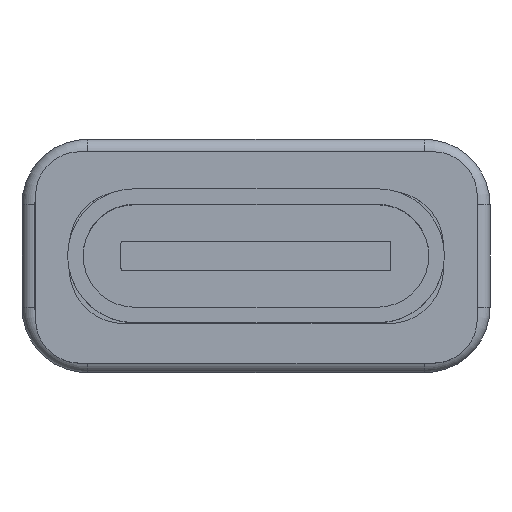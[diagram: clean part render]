
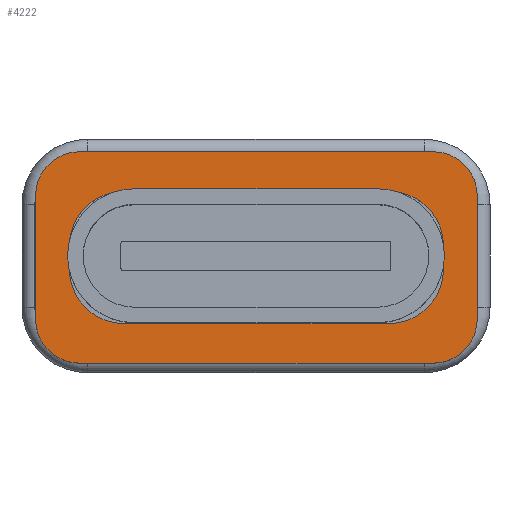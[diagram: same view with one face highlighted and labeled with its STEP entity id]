
A CAD part, top view. The second image highlights one B-rep face of the part: STEP entity #4222.
In plain terms, the highlighted planar face has unit normal (0, 0, 1).
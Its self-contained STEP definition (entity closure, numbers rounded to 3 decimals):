
#24 = VECTOR ( 'NONE', #926, 1000. ) ;
#26 = EDGE_CURVE ( 'NONE', #3141, #939, #163, .T. ) ;
#46 = AXIS2_PLACEMENT_3D ( 'NONE', #3420, #2118, #4640 ) ;
#112 = ORIENTED_EDGE ( 'NONE', *, *, #1993, .F. ) ;
#128 = CARTESIAN_POINT ( 'NONE',  ( -4.225, 2.525, 1.5 ) ) ;
#152 = CARTESIAN_POINT ( 'NONE',  ( -3.17, 1.58, 1.5 ) ) ;
#163 = LINE ( 'NONE', #4346, #24 ) ;
#179 = ORIENTED_EDGE ( 'NONE', *, *, #3443, .F. ) ;
#186 = VERTEX_POINT ( 'NONE', #4287 ) ;
#251 = CARTESIAN_POINT ( 'NONE',  ( -5.275, 1.475, 1.5 ) ) ;
#346 = ORIENTED_EDGE ( 'NONE', *, *, #3162, .T. ) ;
#419 = ORIENTED_EDGE ( 'NONE', *, *, #26, .T. ) ;
#533 = VERTEX_POINT ( 'NONE', #2607 ) ;
#553 = DIRECTION ( 'NONE',  ( 1., 0., 0. ) ) ;
#559 = CIRCLE ( 'NONE', #3631, 1.3 ) ;
#593 = ORIENTED_EDGE ( 'NONE', *, *, #900, .T. ) ;
#648 = EDGE_CURVE ( 'NONE', #2923, #2991, #3325, .T. ) ;
#659 = CARTESIAN_POINT ( 'NONE',  ( 5.275, 1.475, 1.5 ) ) ;
#665 = VECTOR ( 'NONE', #5123, 1000. ) ;
#728 = AXIS2_PLACEMENT_3D ( 'NONE', #3861, #4698, #2673 ) ;
#753 = VECTOR ( 'NONE', #2678, 1000. ) ;
#759 = DIRECTION ( 'NONE',  ( 0., 0., 1. ) ) ;
#837 = CIRCLE ( 'NONE', #46, 1.05 ) ;
#870 = CARTESIAN_POINT ( 'NONE',  ( -5.275, 1.475, 1.5 ) ) ;
#883 = LINE ( 'NONE', #2189, #665 ) ;
#884 = CARTESIAN_POINT ( 'NONE',  ( -4.47, 0.28, 1.5 ) ) ;
#900 = EDGE_CURVE ( 'NONE', #3302, #1604, #3615, .T. ) ;
#926 = DIRECTION ( 'NONE',  ( 0., -1., 0. ) ) ;
#939 = VERTEX_POINT ( 'NONE', #4723 ) ;
#959 = CARTESIAN_POINT ( 'NONE',  ( 3.17, 1.58, 1.5 ) ) ;
#1063 = CARTESIAN_POINT ( 'NONE',  ( 4.47, 0.28, 1.5 ) ) ;
#1106 = CARTESIAN_POINT ( 'NONE',  ( -4.225, -2.525, 1.5 ) ) ;
#1194 = CARTESIAN_POINT ( 'NONE',  ( 4.225, -2.525, 1.5 ) ) ;
#1205 = VECTOR ( 'NONE', #553, 1000. ) ;
#1292 = EDGE_CURVE ( 'NONE', #3608, #2923, #837, .T. ) ;
#1304 = DIRECTION ( 'NONE',  ( 0., -1., 0. ) ) ;
#1330 = VERTEX_POINT ( 'NONE', #4224 ) ;
#1411 = CARTESIAN_POINT ( 'NONE',  ( -4.225, 2.525, 1.5 ) ) ;
#1487 = FACE_BOUND ( 'NONE', #5407, .T. ) ;
#1538 = CIRCLE ( 'NONE', #5292, 1.3 ) ;
#1561 = EDGE_CURVE ( 'NONE', #186, #4450, #4711, .T. ) ;
#1591 = ORIENTED_EDGE ( 'NONE', *, *, #1818, .F. ) ;
#1604 = VERTEX_POINT ( 'NONE', #251 ) ;
#1641 = CIRCLE ( 'NONE', #4690, 1.3 ) ;
#1655 = DIRECTION ( 'NONE',  ( 0., 0., -1. ) ) ;
#1707 = CARTESIAN_POINT ( 'NONE',  ( 3.17, 0.28, 1.5 ) ) ;
#1763 = DIRECTION ( 'NONE',  ( -1., 0., 0. ) ) ;
#1767 = DIRECTION ( 'NONE',  ( 0., -1., 0. ) ) ;
#1776 = VERTEX_POINT ( 'NONE', #3283 ) ;
#1799 = ORIENTED_EDGE ( 'NONE', *, *, #2355, .T. ) ;
#1808 = DIRECTION ( 'NONE',  ( 0., 0., -1. ) ) ;
#1809 = ORIENTED_EDGE ( 'NONE', *, *, #1922, .T. ) ;
#1818 = EDGE_CURVE ( 'NONE', #4450, #5337, #4318, .T. ) ;
#1864 = EDGE_CURVE ( 'NONE', #533, #939, #1538, .T. ) ;
#1922 = EDGE_CURVE ( 'NONE', #186, #1330, #559, .T. ) ;
#1929 = FACE_OUTER_BOUND ( 'NONE', #3234, .T. ) ;
#1936 = LINE ( 'NONE', #1411, #753 ) ;
#1993 = EDGE_CURVE ( 'NONE', #4831, #4410, #5373, .T. ) ;
#2045 = ORIENTED_EDGE ( 'NONE', *, *, #1561, .F. ) ;
#2056 = ORIENTED_EDGE ( 'NONE', *, *, #5077, .T. ) ;
#2118 = DIRECTION ( 'NONE',  ( 0., 0., 1. ) ) ;
#2189 = CARTESIAN_POINT ( 'NONE',  ( -3.17, -1.58, 1.5 ) ) ;
#2233 = VECTOR ( 'NONE', #1767, 1000. ) ;
#2355 = EDGE_CURVE ( 'NONE', #4485, #3141, #1641, .T. ) ;
#2590 = LINE ( 'NONE', #152, #1205 ) ;
#2607 = CARTESIAN_POINT ( 'NONE',  ( 3.17, -1.58, 1.5 ) ) ;
#2612 = CIRCLE ( 'NONE', #4966, 1.05 ) ;
#2673 = DIRECTION ( 'NONE',  ( 1., 0., 0. ) ) ;
#2678 = DIRECTION ( 'NONE',  ( 1., 0., 0. ) ) ;
#2689 = EDGE_CURVE ( 'NONE', #1330, #4485, #2590, .T. ) ;
#2731 = DIRECTION ( 'NONE',  ( 0., 0., 1. ) ) ;
#2779 = DIRECTION ( 'NONE',  ( 1., 0., 0. ) ) ;
#2808 = VECTOR ( 'NONE', #1304, 1000. ) ;
#2822 = DIRECTION ( 'NONE',  ( 1., 0., 0. ) ) ;
#2906 = DIRECTION ( 'NONE',  ( 1., 0., 0. ) ) ;
#2923 = VERTEX_POINT ( 'NONE', #1106 ) ;
#2987 = CARTESIAN_POINT ( 'NONE',  ( -4.225, -2.525, 1.5 ) ) ;
#2991 = VERTEX_POINT ( 'NONE', #1194 ) ;
#3069 = VECTOR ( 'NONE', #4932, 1000. ) ;
#3105 = ORIENTED_EDGE ( 'NONE', *, *, #1292, .T. ) ;
#3141 = VERTEX_POINT ( 'NONE', #1063 ) ;
#3151 = ORIENTED_EDGE ( 'NONE', *, *, #2689, .T. ) ;
#3162 = EDGE_CURVE ( 'NONE', #2991, #4410, #2612, .T. ) ;
#3188 = CARTESIAN_POINT ( 'NONE',  ( -4.225, 1.475, 1.5 ) ) ;
#3194 = CARTESIAN_POINT ( 'NONE',  ( -3.17, -1.58, 1.5 ) ) ;
#3197 = CARTESIAN_POINT ( 'NONE',  ( -3.17, 0.28, 1.5 ) ) ;
#3234 = EDGE_LOOP ( 'NONE', ( #593, #2056, #3105, #4696, #346, #112, #179, #4637 ) ) ;
#3244 = PLANE ( 'NONE',  #5237 ) ;
#3283 = CARTESIAN_POINT ( 'NONE',  ( 4.225, 2.525, 1.5 ) ) ;
#3297 = AXIS2_PLACEMENT_3D ( 'NONE', #4675, #1808, #1763 ) ;
#3302 = VERTEX_POINT ( 'NONE', #128 ) ;
#3305 = CARTESIAN_POINT ( 'NONE',  ( 5.275, 1.475, 1.5 ) ) ;
#3325 = LINE ( 'NONE', #2987, #4601 ) ;
#3420 = CARTESIAN_POINT ( 'NONE',  ( -4.225, -1.475, 1.5 ) ) ;
#3443 = EDGE_CURVE ( 'NONE', #1776, #4831, #4854, .T. ) ;
#3489 = EDGE_CURVE ( 'NONE', #5337, #533, #883, .T. ) ;
#3608 = VERTEX_POINT ( 'NONE', #4504 ) ;
#3615 = CIRCLE ( 'NONE', #728, 1.05 ) ;
#3631 = AXIS2_PLACEMENT_3D ( 'NONE', #3197, #3930, #5188 ) ;
#3745 = LINE ( 'NONE', #870, #2808 ) ;
#3837 = ORIENTED_EDGE ( 'NONE', *, *, #3489, .F. ) ;
#3861 = CARTESIAN_POINT ( 'NONE',  ( -4.225, 1.475, 1.5 ) ) ;
#3864 = EDGE_CURVE ( 'NONE', #3302, #1776, #1936, .T. ) ;
#3930 = DIRECTION ( 'NONE',  ( 0., 0., -1. ) ) ;
#4036 = CARTESIAN_POINT ( 'NONE',  ( -3.17, -0.28, 1.5 ) ) ;
#4159 = DIRECTION ( 'NONE',  ( 1., 0., 0. ) ) ;
#4222 = ADVANCED_FACE ( 'NONE', ( #1929, #1487 ), #3244, .T. ) ;
#4224 = CARTESIAN_POINT ( 'NONE',  ( -3.17, 1.58, 1.5 ) ) ;
#4271 = CARTESIAN_POINT ( 'NONE',  ( 5.275, -1.475, 1.5 ) ) ;
#4287 = CARTESIAN_POINT ( 'NONE',  ( -4.47, 0.28, 1.5 ) ) ;
#4318 = CIRCLE ( 'NONE', #5127, 1.3 ) ;
#4346 = CARTESIAN_POINT ( 'NONE',  ( 4.47, 0.28, 1.5 ) ) ;
#4408 = DIRECTION ( 'NONE',  ( 1., 0., 0. ) ) ;
#4410 = VERTEX_POINT ( 'NONE', #4271 ) ;
#4450 = VERTEX_POINT ( 'NONE', #4653 ) ;
#4485 = VERTEX_POINT ( 'NONE', #959 ) ;
#4504 = CARTESIAN_POINT ( 'NONE',  ( -5.275, -1.475, 1.5 ) ) ;
#4559 = CARTESIAN_POINT ( 'NONE',  ( 4.225, -1.475, 1.5 ) ) ;
#4601 = VECTOR ( 'NONE', #4159, 1000. ) ;
#4637 = ORIENTED_EDGE ( 'NONE', *, *, #3864, .F. ) ;
#4640 = DIRECTION ( 'NONE',  ( 1., 0., 0. ) ) ;
#4653 = CARTESIAN_POINT ( 'NONE',  ( -4.47, -0.28, 1.5 ) ) ;
#4657 = DIRECTION ( 'NONE',  ( -1., 0., 0. ) ) ;
#4671 = ORIENTED_EDGE ( 'NONE', *, *, #1864, .F. ) ;
#4675 = CARTESIAN_POINT ( 'NONE',  ( 4.225, 1.475, 1.5 ) ) ;
#4690 = AXIS2_PLACEMENT_3D ( 'NONE', #1707, #1655, #4657 ) ;
#4696 = ORIENTED_EDGE ( 'NONE', *, *, #648, .T. ) ;
#4698 = DIRECTION ( 'NONE',  ( 0., 0., 1. ) ) ;
#4711 = LINE ( 'NONE', #884, #2233 ) ;
#4723 = CARTESIAN_POINT ( 'NONE',  ( 4.47, -0.28, 1.5 ) ) ;
#4745 = CARTESIAN_POINT ( 'NONE',  ( 3.17, -0.28, 1.5 ) ) ;
#4831 = VERTEX_POINT ( 'NONE', #659 ) ;
#4840 = DIRECTION ( 'NONE',  ( 0., 0., 1. ) ) ;
#4854 = CIRCLE ( 'NONE', #3297, 1.05 ) ;
#4932 = DIRECTION ( 'NONE',  ( 0., -1., 0. ) ) ;
#4966 = AXIS2_PLACEMENT_3D ( 'NONE', #4559, #759, #2906 ) ;
#5077 = EDGE_CURVE ( 'NONE', #1604, #3608, #3745, .T. ) ;
#5123 = DIRECTION ( 'NONE',  ( 1., 0., 0. ) ) ;
#5127 = AXIS2_PLACEMENT_3D ( 'NONE', #4036, #5254, #2822 ) ;
#5188 = DIRECTION ( 'NONE',  ( -1., 0., 0. ) ) ;
#5237 = AXIS2_PLACEMENT_3D ( 'NONE', #3188, #4840, #2779 ) ;
#5254 = DIRECTION ( 'NONE',  ( 0., 0., 1. ) ) ;
#5292 = AXIS2_PLACEMENT_3D ( 'NONE', #4745, #2731, #4408 ) ;
#5337 = VERTEX_POINT ( 'NONE', #3194 ) ;
#5373 = LINE ( 'NONE', #3305, #3069 ) ;
#5407 = EDGE_LOOP ( 'NONE', ( #1591, #2045, #1809, #3151, #1799, #419, #4671, #3837 ) ) ;
